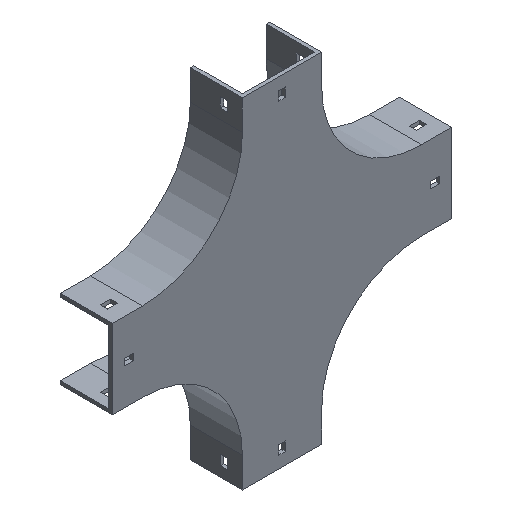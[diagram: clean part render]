
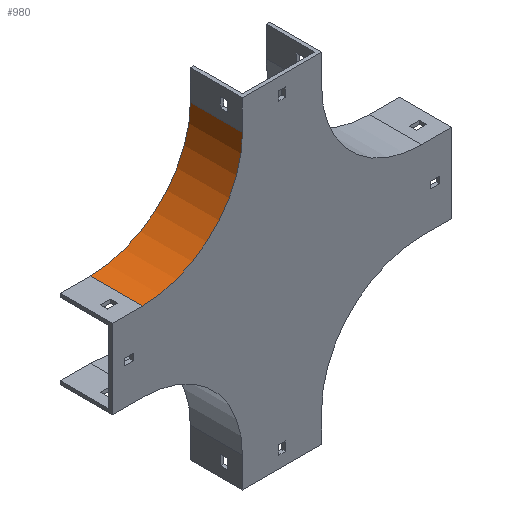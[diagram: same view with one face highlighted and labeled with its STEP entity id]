
A CAD part, isometric view. The second image highlights one B-rep face of the part: STEP entity #980.
In plain terms, the highlighted cylindrical face has radius 100 mm (diameter 200 mm), a partial arc.
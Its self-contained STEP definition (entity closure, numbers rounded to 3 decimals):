
#20 = CARTESIAN_POINT ( 'NONE',  ( -279., 52., 0. ) ) ;
#51 = CYLINDRICAL_SURFACE ( 'NONE', #1837, 100. ) ;
#145 = EDGE_CURVE ( 'NONE', #2680, #2339, #376, .T. ) ;
#202 = VECTOR ( 'NONE', #1631, 1000. ) ;
#232 = CARTESIAN_POINT ( 'NONE',  ( -179., 0., 0. ) ) ;
#319 = DIRECTION ( 'NONE',  ( 0., -1., 0. ) ) ;
#349 = LINE ( 'NONE', #2494, #202 ) ;
#376 = CIRCLE ( 'NONE', #1796, 100. ) ;
#401 = ORIENTED_EDGE ( 'NONE', *, *, #1874, .F. ) ;
#567 = CARTESIAN_POINT ( 'NONE',  ( -279., 0., -100. ) ) ;
#621 = CARTESIAN_POINT ( 'NONE',  ( -279., 52., -100. ) ) ;
#706 = FACE_OUTER_BOUND ( 'NONE', #1133, .T. ) ;
#902 = DIRECTION ( 'NONE',  ( 0., 0., 1. ) ) ;
#980 = ADVANCED_FACE ( 'NONE', ( #706 ), #51, .F. ) ;
#1048 = VERTEX_POINT ( 'NONE', #1588 ) ;
#1133 = EDGE_LOOP ( 'NONE', ( #1559, #401, #1626, #2633 ) ) ;
#1185 = LINE ( 'NONE', #2228, #1899 ) ;
#1194 = EDGE_CURVE ( 'NONE', #2260, #1048, #2569, .T. ) ;
#1559 = ORIENTED_EDGE ( 'NONE', *, *, #145, .T. ) ;
#1566 = DIRECTION ( 'NONE',  ( 0., 0., 1. ) ) ;
#1588 = CARTESIAN_POINT ( 'NONE',  ( -179., 52., 0. ) ) ;
#1626 = ORIENTED_EDGE ( 'NONE', *, *, #1194, .F. ) ;
#1631 = DIRECTION ( 'NONE',  ( 0., -1., 0. ) ) ;
#1706 = DIRECTION ( 'NONE',  ( 0., -1., 0. ) ) ;
#1728 = CARTESIAN_POINT ( 'NONE',  ( -279., 0., 0. ) ) ;
#1796 = AXIS2_PLACEMENT_3D ( 'NONE', #1728, #2585, #1566 ) ;
#1837 = AXIS2_PLACEMENT_3D ( 'NONE', #20, #1706, #2605 ) ;
#1874 = EDGE_CURVE ( 'NONE', #1048, #2339, #349, .T. ) ;
#1899 = VECTOR ( 'NONE', #319, 1000. ) ;
#1969 = DIRECTION ( 'NONE',  ( 0., -1., 0. ) ) ;
#2228 = CARTESIAN_POINT ( 'NONE',  ( -279., 52., -100. ) ) ;
#2260 = VERTEX_POINT ( 'NONE', #621 ) ;
#2339 = VERTEX_POINT ( 'NONE', #232 ) ;
#2427 = AXIS2_PLACEMENT_3D ( 'NONE', #2461, #1969, #902 ) ;
#2461 = CARTESIAN_POINT ( 'NONE',  ( -279., 52., 0. ) ) ;
#2494 = CARTESIAN_POINT ( 'NONE',  ( -179., 52., 0. ) ) ;
#2569 = CIRCLE ( 'NONE', #2427, 100. ) ;
#2585 = DIRECTION ( 'NONE',  ( 0., -1., 0. ) ) ;
#2600 = EDGE_CURVE ( 'NONE', #2260, #2680, #1185, .T. ) ;
#2605 = DIRECTION ( 'NONE',  ( 0., 0., -1. ) ) ;
#2633 = ORIENTED_EDGE ( 'NONE', *, *, #2600, .T. ) ;
#2680 = VERTEX_POINT ( 'NONE', #567 ) ;
